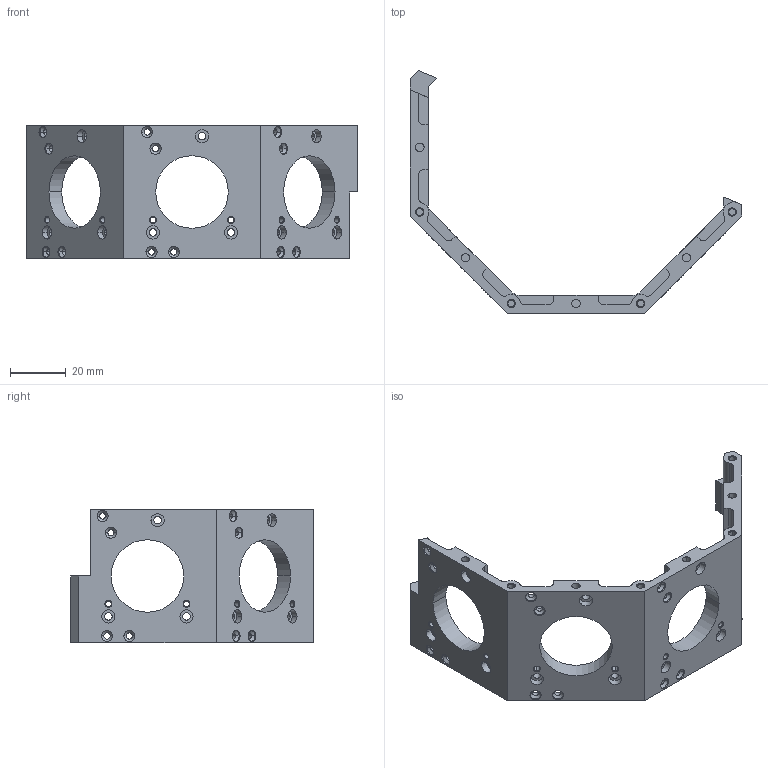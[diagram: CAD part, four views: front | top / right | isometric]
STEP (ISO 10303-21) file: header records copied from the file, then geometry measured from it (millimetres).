
FILE_DESCRIPTION(/* description */ ('VariCAD 2010-3.03 AP-214'),/* implementation_level */ '2;1');
FILE_NAME(/* name */ '0353-19-70',/* time_stamp */ '2011-02-28T22:31:58-07:00',/* author */ (''),/* organization */ (''),/* preprocessor_version */ 'ST-DEVELOPER v12',/* originating_system */ 'VariCAD 2010-3.03; kernel version (20100102)',/* authorisation */ '');
FILE_SCHEMA (('AUTOMOTIVE_DESIGN'));
Length unit declared in the file: millimetre
Products named in the file (1): Part
Bounding box: 119 x 87.05 x 48 mm (x, y, z)
Volume: 36215.8 mm3; surface area: 23679.3 mm2
Topology: 17 solids, 17 shells, 482 faces, 1144 edges, 720 vertices
Faces by surface type: cylinder 307, plane 111, cone 64
Entity records: 17848 total; most frequent: DIRECTION 2766, CARTESIAN_POINT 2364, ORIENTED_EDGE 2288, EDGE_CURVE 1144, AXIS2_PLACEMENT_3D 1122, VERTEX_POINT 720, CIRCLE 622, EDGE_LOOP 618
